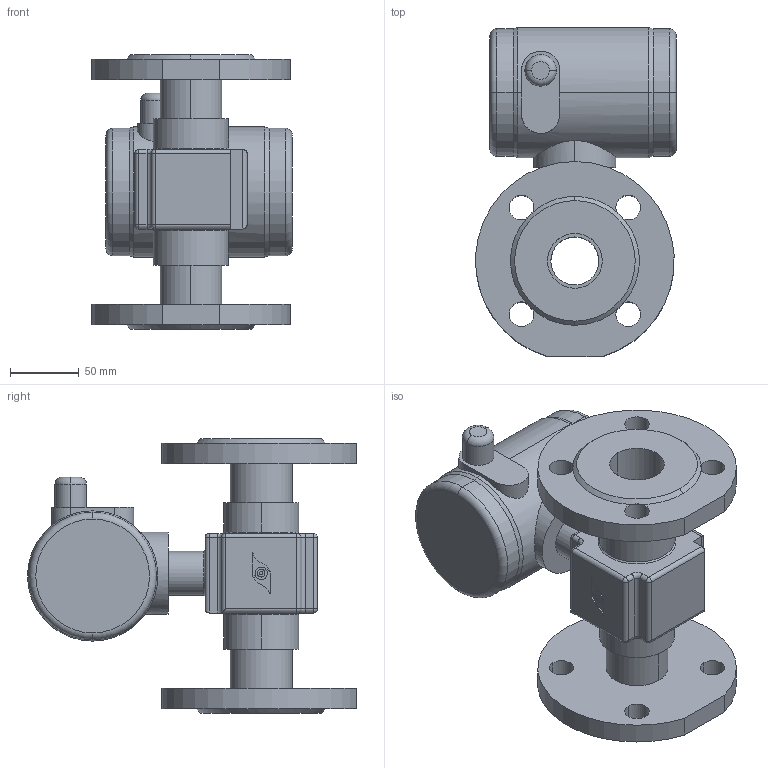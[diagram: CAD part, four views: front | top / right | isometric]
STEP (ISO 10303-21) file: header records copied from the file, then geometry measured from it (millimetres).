
FILE_DESCRIPTION (( 'STEP AP203' ), '1' );
FILE_NAME ('Ïèòåðôëîó ÐÑ40 ôëàíöåâûé äëÿ ñàéòà.STEP', '2015-11-03T09:50:54', ( '' ), ( '' ), 'SwSTEP 2.0', 'SolidWorks 2015', '' );
FILE_SCHEMA (( 'CONFIG_CONTROL_DESIGN' ));
Length unit declared in the file: millimetre
Products named in the file (2): Ïèòåðôëîó ÐÑ40 ôëàíöåâûé äëÿ ñàéòà
Bounding box: 146.37 x 240 x 200 mm (x, y, z)
Volume: 1852896 mm3; surface area: 204671.3 mm2
Topology: 3 solids, 3 shells, 201 faces, 482 edges, 288 vertices
Faces by surface type: cylinder 92, plane 66, cone 14, torus 11, sphere 10, bspline 8
Entity records: 6228 total; most frequent: CARTESIAN_POINT 1307, DIRECTION 1077, ORIENTED_EDGE 944, EDGE_CURVE 472, AXIS2_PLACEMENT_3D 434, VERTEX_POINT 288, CIRCLE 239, EDGE_LOOP 234
